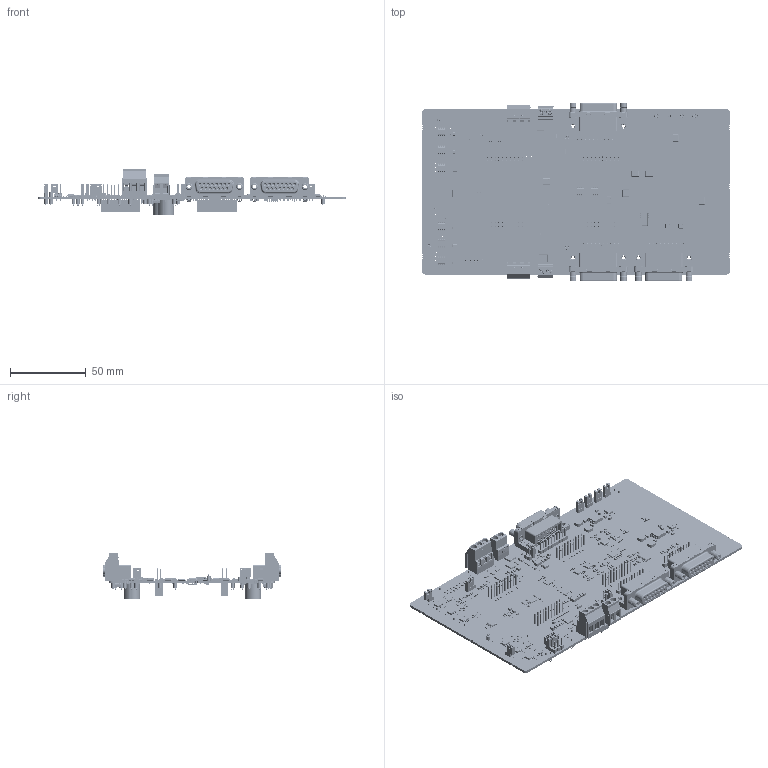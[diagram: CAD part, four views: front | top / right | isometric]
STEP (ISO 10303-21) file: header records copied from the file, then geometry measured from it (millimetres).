
FILE_DESCRIPTION(('Open CASCADE Model'),'2;1');
FILE_NAME('Open CASCADE Shape Model','2023-05-26T12:17:07',('Author'),( 'Open CASCADE'),'Open CASCADE STEP processor 7.5','Open CASCADE 7.5' ,'Unknown');
FILE_SCHEMA(('AUTOMOTIVE_DESIGN { 1 0 10303 214 1 1 1 1 }'));
Length unit declared in the file: millimetre
Products named in the file (692): PCB; Board; Open CASCADE STEP translator 7.5 7.1.1; J6; Conn_1888687_HDR2; 1; 2; 3; 4; 5; J12; Conn_D15S33E4GV00LF_CONN_D-SUB_RCPT15; 6; 3_MIR; 4_MIR; 6_MIR; logo; 5_2; J8; J7; R229; 6955125616; Extruded; 6955125456; U41; DBQ0016A; DBQ0016A_2; DBQ0016A_1; TP47; Keystone_5001; Keystone5001_black; Keystone500x_wire; TP46; TP30; Keystone_5000; Keystone5000_red; R292; 6955127696; 6955127536; R291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
Assembly tree (2063 placements, depth 6):
  PCB
    Board
      Open CASCADE STEP translator 7.5 7.1.1
    J6
      Conn_1888687_HDR2
        1
        2
        3
        4
        5
    J12
      Conn_D15S33E4GV00LF_CONN_D-SUB_RCPT15
        1
        2
        3
        4
        6
        3_MIR
        4_MIR
        6_MIR
        logo
        5_2  x7
        5  x8
    J8
      Conn_D15S33E4GV00LF_CONN_D-SUB_RCPT15
        1
        2
        3
        4
        6
        3_MIR
        4_MIR
        6_MIR
        logo
        5_2  x7
        5  x8
    J7
      Conn_D15S33E4GV00LF_CONN_D-SUB_RCPT15
        1
        2
        3
        4
        6
        3_MIR
        4_MIR
        6_MIR
        logo
        5_2  x7
        5  x8
    R229
      6955125616  x2
        Extruded
      6955125456
        Extruded
    U41
      DBQ0016A
        DBQ0016A_2
        DBQ0016A_1  x16
    TP47
      Keystone_5001
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Bounding box: 203.2 x 117.74 x 30.71 mm (x, y, z)
Volume: 67325.9 mm3; surface area: 101364.8 mm2
Topology: 2366 solids, 2366 shells, 36572 faces, 91603 edges, 59973 vertices
Faces by surface type: plane 26629, cylinder 5489, bspline 3608, sphere 497, torus 274, cone 75
Full cylindrical faces by diameter (mm): 0.296 x2, 0.3 x2, 0.457 x2, 0.612 x3, 0.636 x23, 0.8 x6, 0.9 x45, 1.016 x56, 1.02 x80, 1.06 x45, 1.1 x30, 1.229 x2, 1.3 x14, 2.26 x6, 2.45 x6, 2.5 x24, 3 x18, 3.1 x24, 3.5 x6, 3.65 x12, 3.798 x16, 3.812 x6, 4 x10, 4.5 x12, 4.7 x12
Entity records: 296246 total; most frequent: CARTESIAN_POINT 66735, ORIENTED_EDGE 42224, DIRECTION 40194, EDGE_CURVE 21112, LINE 15642, VECTOR 15642, VERTEX_POINT 13845, AXIS2_PLACEMENT_3D 12276
